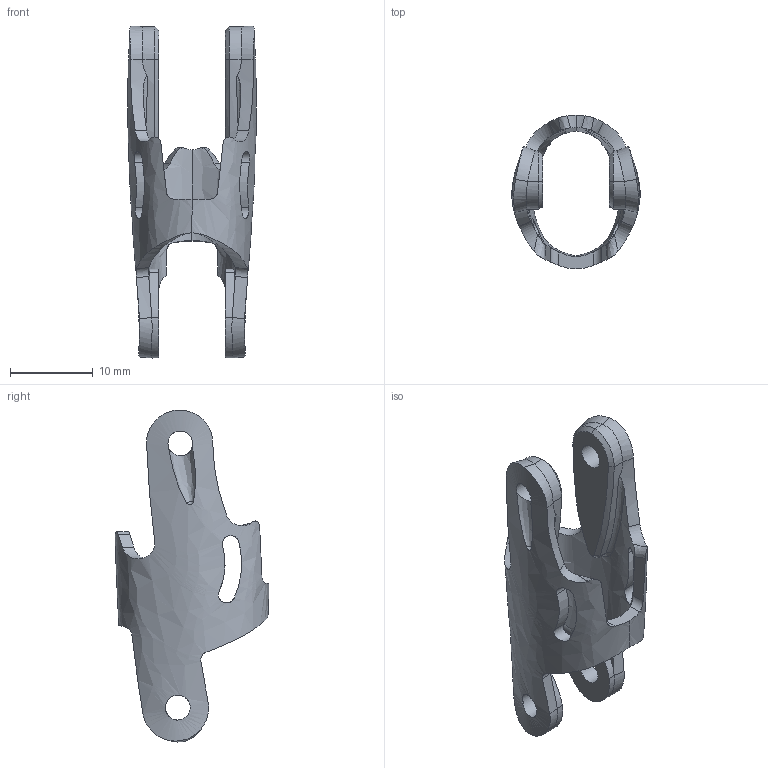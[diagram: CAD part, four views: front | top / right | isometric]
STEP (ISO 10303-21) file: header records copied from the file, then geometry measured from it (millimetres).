
FILE_DESCRIPTION(/* description */ (''),/* implementation_level */ '2;1');
FILE_NAME(/* name */ 'middle part.stp',/* time_stamp */ '2023-08-14T21:49:08+03:00',/* author */ ('mosta'),/* organization */ (''),/* preprocessor_version */ 'ST-DEVELOPER v19.2',/* originating_system */ 'Autodesk Inventor 2024',/* authorisation */ '');
FILE_SCHEMA (('AUTOMOTIVE_DESIGN { 1 0 10303 214 3 1 1 }'));
Length unit declared in the file: millimetre
Products named in the file (1): middle part
Bounding box: 15.55 x 18.59 x 40.11 mm (x, y, z)
Volume: 1670.5 mm3; surface area: 2340.8 mm2
Topology: 1 solids, 1 shells, 115 faces, 327 edges, 212 vertices
Faces by surface type: bspline 82, cylinder 20, plane 9, sphere 2, cone 2
Full cylindrical faces by diameter (mm): 3 x4
Entity records: 18916 total; most frequent: CARTESIAN_POINT 16556, ORIENTED_EDGE 654, EDGE_CURVE 327, B_SPLINE_CURVE_WITH_KNOTS 230, VERTEX_POINT 212, DIRECTION 187, EDGE_LOOP 127, FACE_OUTER_BOUND 115
